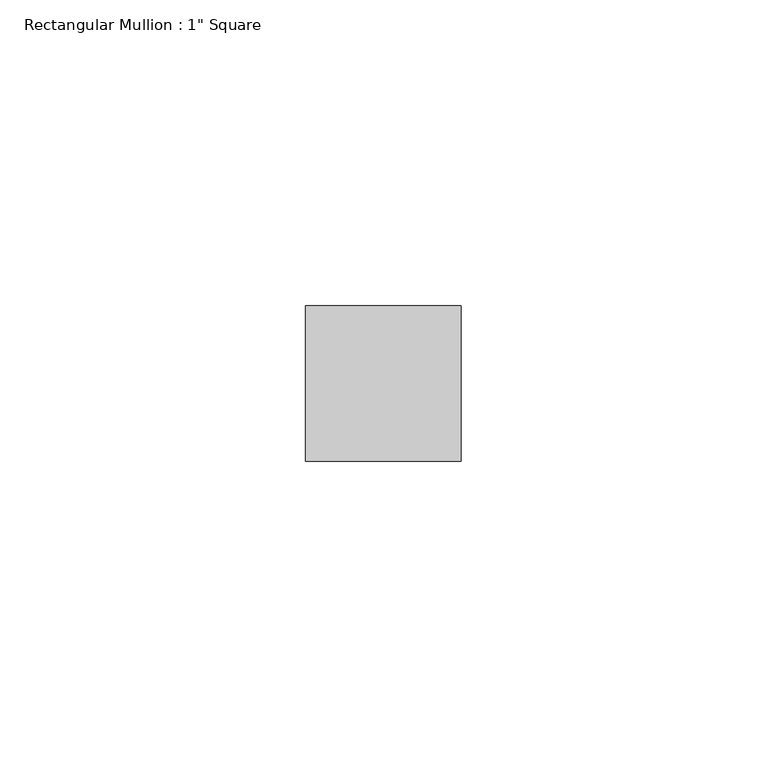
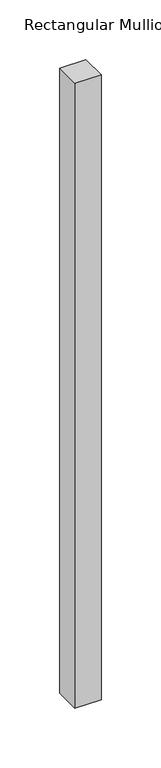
"""IFC4 building model written with IfcOpenShell, lengths in millimetres: member geometry."""

from ifc_helpers import new_model, si_unit, frame, origin, place, context, project, spatial, polyline, outline, extrude, source, transform, mapped, element, save


def member_5e5b0f7a(model_context):
    return source(origin(), model_context, "Body", "SweptSolid", [
        extrude(outline(polyline([(12.7, 12.7), (12.7, -12.7), (-12.7, -12.7), (-12.7, 12.7), (12.7, 12.7)])), frame((0.0, 0.0, -638.8842225), z_axis=(0.0, 0.0, 1.0), x_axis=(1.0, 0.0, 0.0)), (0.0, 0.0, 1.0), 638.8842225),
    ])


if __name__ == "__main__":
    model = new_model("IFC4")
    model_context = context("Model", 3, world=origin())
    ifc_project = project(units=[si_unit("LENGTHUNIT", "METRE", prefix="MILLI")], contexts=[model_context])
    site = spatial("IfcSite", under=ifc_project)
    building = spatial("IfcBuilding", under=site)
    placement = place(None, origin())
    member_shape = member_5e5b0f7a(model_context)
    element("IfcMember", 1, ObjectType="Rectangular Mullion : 1\" Square", at=placement, inside=building, context=model_context, shape_type="MappedRepresentation", body=[
        mapped(member_shape, transform((0.0, 0.0, 0.0), x_axis=(1.0, 0.0, 0.0), y_axis=(0.0, 1.0, 0.0), z_axis=(0.0, 0.0, 1.0))),
    ])
    save(model, "model.ifc")
